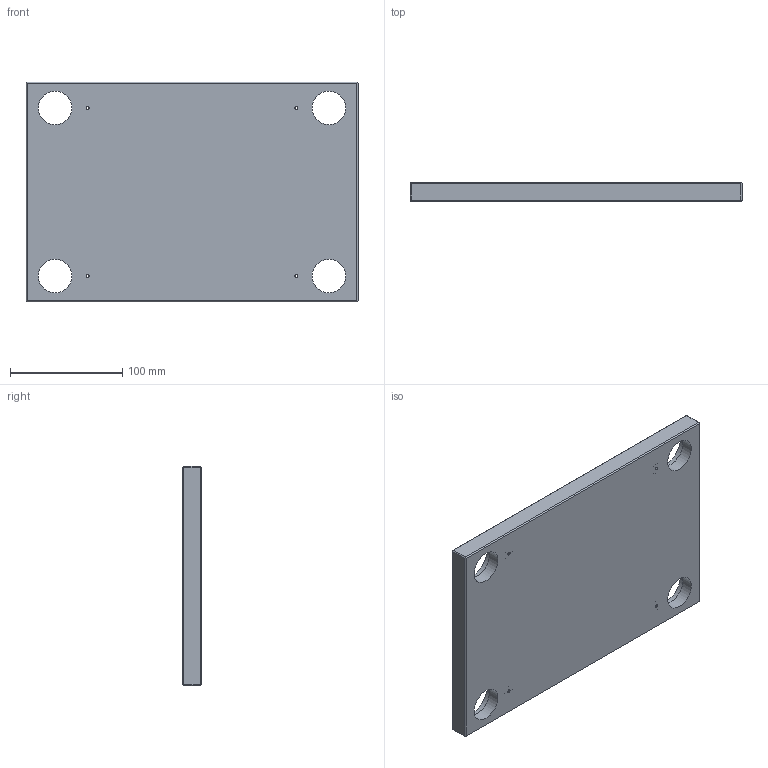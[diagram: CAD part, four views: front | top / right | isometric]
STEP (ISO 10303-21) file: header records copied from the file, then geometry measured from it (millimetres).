
FILE_DESCRIPTION(/* description */ ('STEP AP214'),/* implementation_level */ '2;1');
FILE_NAME(/* name */ 'KM0201962960171730',/* time_stamp */ '2026-06-18T15:01:46+02:00',/* author */ ('License CC BY-ND 4.0'),/* organization */ ('CADENAS'),/* preprocessor_version */ 'ST-DEVELOPER v20',/* originating_system */ 'PARTsolutions',/* authorisation */ ' ');
FILE_SCHEMA (('AUTOMOTIVE_DESIGN {1 0 10303 214 3 1 1}'));
Length unit declared in the file: millimetre
Products named in the file (1): KM0201962960171730
Bounding box: 296 x 17 x 196 mm (x, y, z)
Volume: 924019.6 mm3; surface area: 134727.7 mm2
Topology: 1 solids, 1 shells, 42 faces, 104 edges, 68 vertices
Faces by surface type: plane 22, cylinder 12, cone 8
Full cylindrical faces by diameter (mm): 10.106 x4, 30 x4, 36 x4
Entity records: 1174 total; most frequent: DIRECTION 198, CARTESIAN_POINT 187, ORIENTED_EDGE 160, EDGE_LOOP 82, FACE_BOUND 82, EDGE_CURVE 80, AXIS2_PLACEMENT_3D 75, VERTEX_POINT 64
